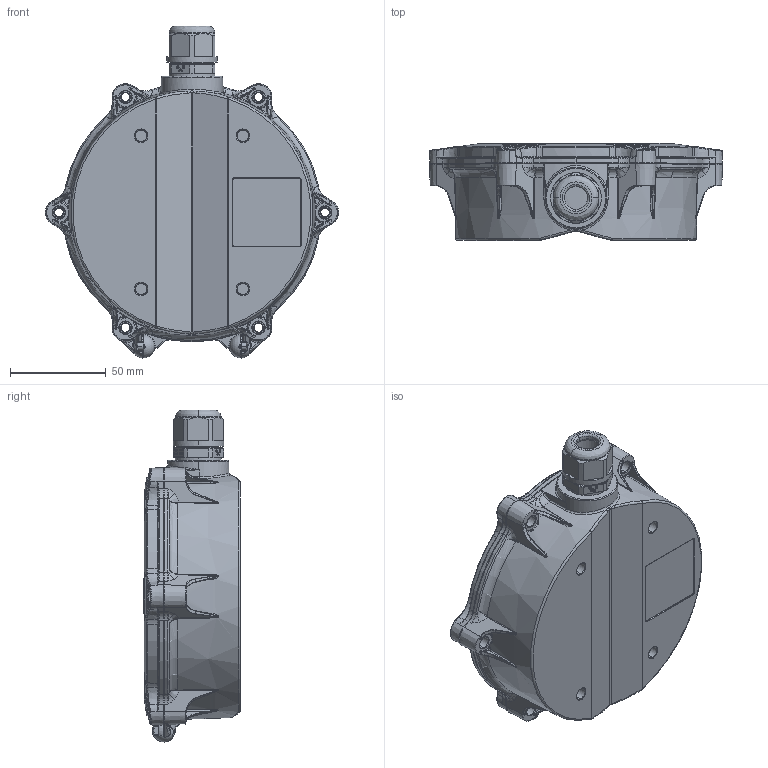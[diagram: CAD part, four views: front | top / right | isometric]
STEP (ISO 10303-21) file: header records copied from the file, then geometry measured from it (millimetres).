
FILE_DESCRIPTION (( 'STEP AP214' ), '1' );
FILE_NAME ('ORB V2 defeatured solid.STEP', '2026-09-02T04:13:58', ( '' ), ( '' ), 'SwSTEP 2.0', 'SolidWorks 2023', '' );
FILE_SCHEMA (( 'AUTOMOTIVE_DESIGN' ));
Length unit declared in the file: millimetre
Products named in the file (1): ORB V2 defeatured solid
Bounding box: 152.99 x 50.6 x 173.29 mm (x, y, z)
Surface area: 65912.6 mm2
Topology: 2 solids, 3 shells, 3068 faces, 7488 edges, 4333 vertices
Faces by surface type: bspline 1472, plane 498, cylinder 458, torus 385, cone 176, sphere 79
Entity records: 133045 total; most frequent: CARTESIAN_POINT 71594, ORIENTED_EDGE 14670, DIRECTION 10533, EDGE_CURVE 7335, AXIS2_PLACEMENT_3D 4427, VERTEX_POINT 4325, EDGE_LOOP 3152, ADVANCED_FACE 3069
